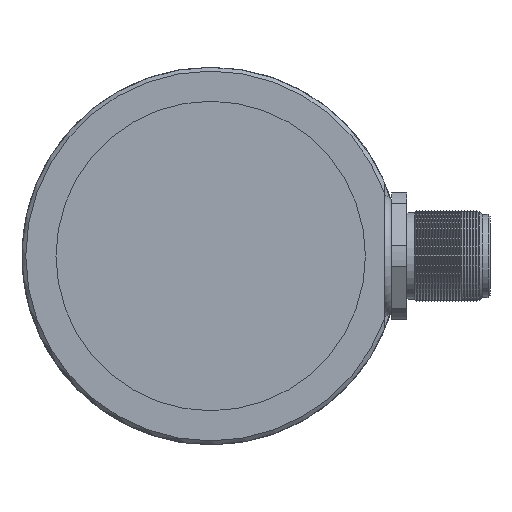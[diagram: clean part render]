
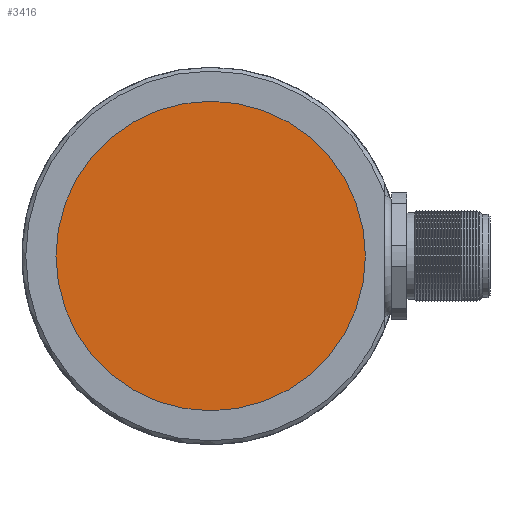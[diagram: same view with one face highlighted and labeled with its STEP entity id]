
A CAD part, left-side view. The second image highlights one B-rep face of the part: STEP entity #3416.
In plain terms, the highlighted planar face has unit normal (-1, 0, 0).
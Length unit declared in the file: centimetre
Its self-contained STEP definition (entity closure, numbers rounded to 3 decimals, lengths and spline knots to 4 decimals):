
#439=PLANE('',#3682);
#834=VERTEX_POINT('',#4051);
#1143=CIRCLE('',#3681,2.05);
#1308=EDGE_CURVE('',#834,#834,#1143,.T.);
#1772=ORIENTED_EDGE('',*,*,#1308,.T.);
#2686=EDGE_LOOP('',(#1772));
#3054=FACE_BOUND('',#2686,.T.);
#3416=ADVANCED_FACE('',(#3054),#439,.F.);
#3681=AXIS2_PLACEMENT_3D('',#4050,#5743,#5744);
#3682=AXIS2_PLACEMENT_3D('',#4052,#5745,$);
#4050=CARTESIAN_POINT('',(-2.7,0.,0.));
#4051=CARTESIAN_POINT('',(-2.7,0.,-2.05));
#4052=CARTESIAN_POINT('',(-2.7,0.,0.));
#5743=DIRECTION('',(-1.,0.,0.));
#5744=DIRECTION('',(0.,0.,-2.05));
#5745=DIRECTION('',(1.,0.,0.));
